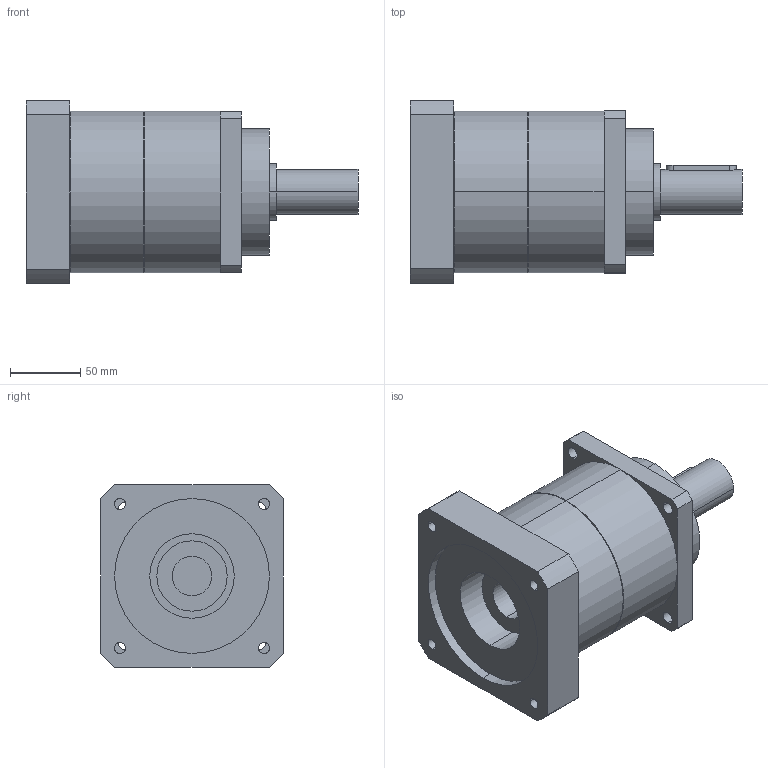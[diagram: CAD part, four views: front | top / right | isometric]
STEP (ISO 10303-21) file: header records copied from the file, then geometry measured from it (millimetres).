
FILE_DESCRIPTION(('CoCreate Modeling STEP Export'),'2;1');
FILE_NAME('GPT120_ig-3-4-5-7-10_32_B5A_28_P11.stp','2015-02-04T17:00:37',(''),(''),'CoCreate Modeling STEP processor for AP214 (Solid Model)','CoCreate Modeling 16.00C 25-Feb-2009 (C) Parametric Technology GmbH','');
FILE_SCHEMA(('AUTOMOTIVE_DESIGN { 1 0 10303 214 1 1 1 1 }'));
Length unit declared in the file: millimetre
Products named in the file (2): GPT120_ig-3-4-5-7-10_32_B5A_28_P11
Assembly tree (1 placements, depth 2):
  GPT120_ig-3-4-5-7-10_32_B5A_28_P11
    GPT120_ig-3-4-5-7-10_32_B5A_28_P11
Bounding box: 236 x 130 x 130 mm (x, y, z)
Volume: 1840413.4 mm3; surface area: 130504.4 mm2
Topology: 1 solids, 1 shells, 77 faces, 204 edges, 139 vertices
Faces by surface type: cylinder 46, plane 27, cone 4
Entity records: 2568 total; most frequent: CARTESIAN_POINT 759, ORIENTED_EDGE 408, DIRECTION 320, EDGE_CURVE 204, VERTEX_POINT 139, AXIS2_PLACEMENT_3D 118, EDGE_LOOP 103, VECTOR 84
